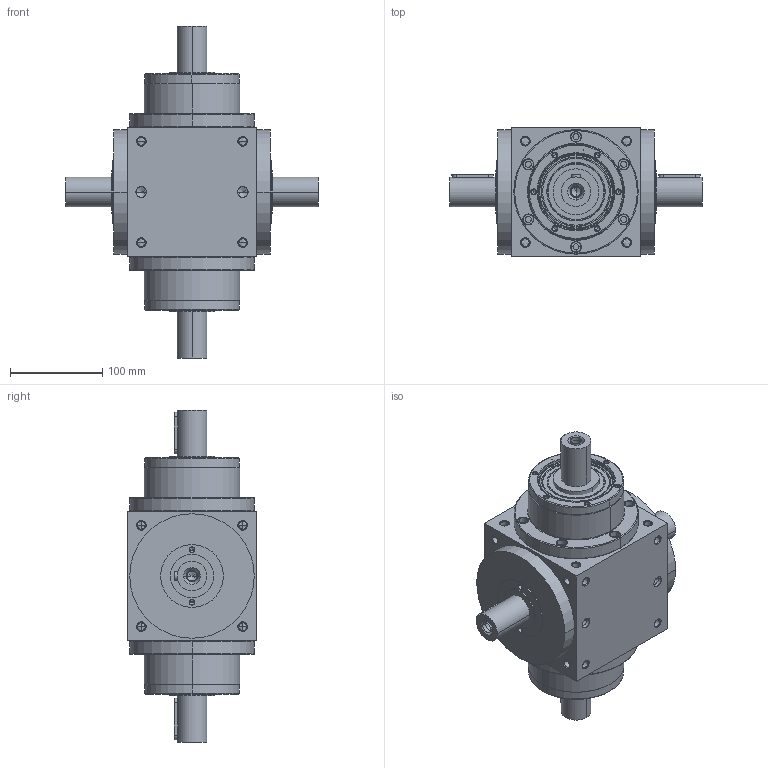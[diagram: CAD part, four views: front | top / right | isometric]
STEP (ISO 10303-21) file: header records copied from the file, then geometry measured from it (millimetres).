
FILE_DESCRIPTION((''),'2;1');
FILE_NAME('AT1404M-1_ASM','2010-02-09T',('d00080'),(''),'PRO/ENGINEER BY PARAMETRIC TECHNOLOGY CORPORATION, 2008170','PRO/ENGINEER BY PARAMETRIC TECHNOLOGY CORPORATION, 2008170','');
FILE_SCHEMA(('CONFIG_CONTROL_DESIGN'));
Length unit declared in the file: millimetre
Products named in the file (4): AT4M-HOUSING-1-6; P1801600001; 22400071006; AT1404M-1_ASM
Assembly tree (5 placements, depth 2):
  AT1404M-1_ASM
    AT4M-HOUSING-1-6
    P1801600001  x2
    22400071006  x2
Bounding box: 274 x 140 x 360 mm (x, y, z)
Volume: 4096470 mm3; surface area: 363131.1 mm2
Topology: 7 solids, 47 shells, 868 faces, 2076 edges, 1228 vertices
Faces by surface type: cylinder 380, cone 300, plane 116, torus 72
Entity records: 19030 total; most frequent: CARTESIAN_POINT 3993, DIRECTION 3378, ORIENTED_EDGE 2844, EDGE_CURVE 1490, AXIS2_PLACEMENT_3D 1414, VERTEX_POINT 933, CIRCLE 764, EDGE_LOOP 757
